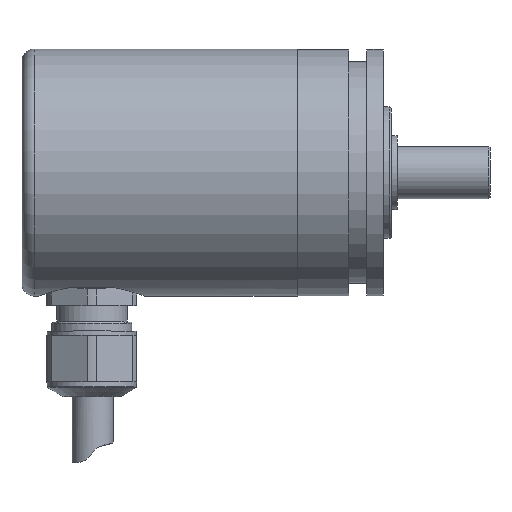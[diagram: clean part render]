
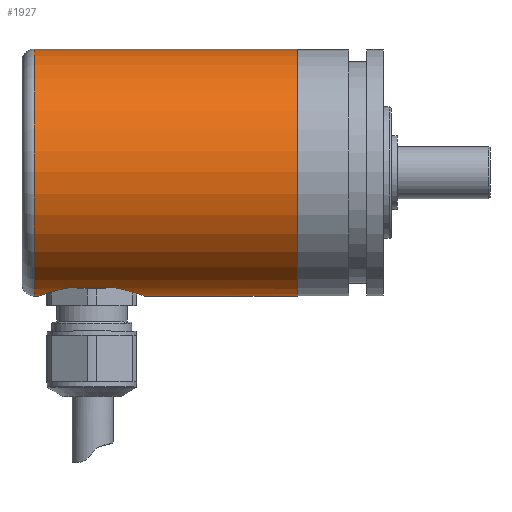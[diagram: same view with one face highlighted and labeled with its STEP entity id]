
A CAD part, top view. The second image highlights one B-rep face of the part: STEP entity #1927.
In plain terms, the highlighted cylindrical face has radius 15.05 mm (diameter 30.1 mm), a full revolution.
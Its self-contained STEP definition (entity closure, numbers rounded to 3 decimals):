
#21=LINE('',#2732,#65);
#22=LINE('',#2733,#66);
#65=VECTOR('',#2338,1000.);
#66=VECTOR('',#2339,1000.);
#109=B_SPLINE_CURVE_WITH_KNOTS('',3,(#2708,#2709,#2710,#2711,#2712,#2713,
#2714,#2715),.UNSPECIFIED.,.F.,.F.,(4,1,1,1,1,4),(0.,0.004,
0.005,0.007,0.011,0.014),
 .UNSPECIFIED.);
#110=B_SPLINE_CURVE_WITH_KNOTS('',3,(#2720,#2721,#2722,#2723,#2724,#2725,
#2726,#2727),.UNSPECIFIED.,.F.,.F.,(4,1,1,1,1,4),(0.,0.004,
0.005,0.007,0.011,0.014),
 .UNSPECIFIED.);
#273=ORIENTED_EDGE('',*,*,#532,.F.);
#274=ORIENTED_EDGE('',*,*,#531,.T.);
#275=ORIENTED_EDGE('',*,*,#537,.T.);
#276=ORIENTED_EDGE('',*,*,#535,.T.);
#277=ORIENTED_EDGE('',*,*,#538,.T.);
#278=ORIENTED_EDGE('',*,*,#533,.T.);
#531=EDGE_CURVE('',#681,#681,#799,.T.);
#532=EDGE_CURVE('',#682,#682,#800,.T.);
#533=EDGE_CURVE('',#683,#684,#109,.T.);
#535=EDGE_CURVE('',#685,#686,#110,.T.);
#537=EDGE_CURVE('',#684,#685,#21,.T.);
#538=EDGE_CURVE('',#686,#683,#22,.F.);
#681=VERTEX_POINT('',#2703);
#682=VERTEX_POINT('',#2706);
#683=VERTEX_POINT('',#2716);
#684=VERTEX_POINT('',#2717);
#685=VERTEX_POINT('',#2728);
#686=VERTEX_POINT('',#2729);
#799=CIRCLE('',#2061,15.05);
#800=CIRCLE('',#2063,15.05);
#930=EDGE_LOOP('',(#273));
#931=EDGE_LOOP('',(#274));
#932=EDGE_LOOP('',(#275,#276,#277,#278));
#1088=FACE_BOUND('',#930,.T.);
#1089=FACE_BOUND('',#931,.T.);
#1090=FACE_BOUND('',#932,.T.);
#1187=CYLINDRICAL_SURFACE('',#2068,15.05);
#1927=ADVANCED_FACE('',(#1088,#1089,#1090),#1187,.T.);
#2061=AXIS2_PLACEMENT_3D('',#2702,#2322,#2323);
#2063=AXIS2_PLACEMENT_3D('',#2705,#2326,#2327);
#2068=AXIS2_PLACEMENT_3D('',#2731,#2336,#2337);
#2322=DIRECTION('',(-1.,0.,0.));
#2323=DIRECTION('',(0.,0.,1.));
#2326=DIRECTION('',(-1.,0.,0.));
#2327=DIRECTION('',(0.,0.,1.));
#2336=DIRECTION('',(-1.,0.,0.));
#2337=DIRECTION('',(0.,0.,1.));
#2338=DIRECTION('',(-1.,0.,0.));
#2339=DIRECTION('',(-1.,0.,0.));
#2702=CARTESIAN_POINT('',(-10.5,0.,0.));
#2703=CARTESIAN_POINT('',(-10.5,0.,15.05));
#2705=CARTESIAN_POINT('',(-42.5,0.,0.));
#2706=CARTESIAN_POINT('',(-42.5,0.,15.05));
#2708=CARTESIAN_POINT('',(-32.91,-14.,5.523));
#2709=CARTESIAN_POINT('',(-31.793,-14.179,5.069));
#2710=CARTESIAN_POINT('',(-30.348,-14.582,3.963));
#2711=CARTESIAN_POINT('',(-29.231,-14.973,1.819));
#2712=CARTESIAN_POINT('',(-28.827,-15.129,-0.598));
#2713=CARTESIAN_POINT('',(-29.851,-14.724,-3.596));
#2714=CARTESIAN_POINT('',(-31.792,-14.179,-5.068));
#2715=CARTESIAN_POINT('',(-32.91,-14.,-5.523));
#2716=CARTESIAN_POINT('',(-32.91,-14.,5.523));
#2717=CARTESIAN_POINT('',(-32.91,-14.,-5.523));
#2720=CARTESIAN_POINT('',(-38.09,-14.,-5.523));
#2721=CARTESIAN_POINT('',(-39.207,-14.179,-5.069));
#2722=CARTESIAN_POINT('',(-40.652,-14.582,-3.963));
#2723=CARTESIAN_POINT('',(-41.769,-14.973,-1.819));
#2724=CARTESIAN_POINT('',(-42.173,-15.129,0.598));
#2725=CARTESIAN_POINT('',(-41.149,-14.724,3.596));
#2726=CARTESIAN_POINT('',(-39.208,-14.179,5.068));
#2727=CARTESIAN_POINT('',(-38.09,-14.,5.523));
#2728=CARTESIAN_POINT('',(-38.09,-14.,-5.523));
#2729=CARTESIAN_POINT('',(-38.09,-14.,5.523));
#2731=CARTESIAN_POINT('',(-25.5,0.,0.));
#2732=CARTESIAN_POINT('',(19.29,-14.,-5.523));
#2733=CARTESIAN_POINT('',(19.29,-14.,5.523));
